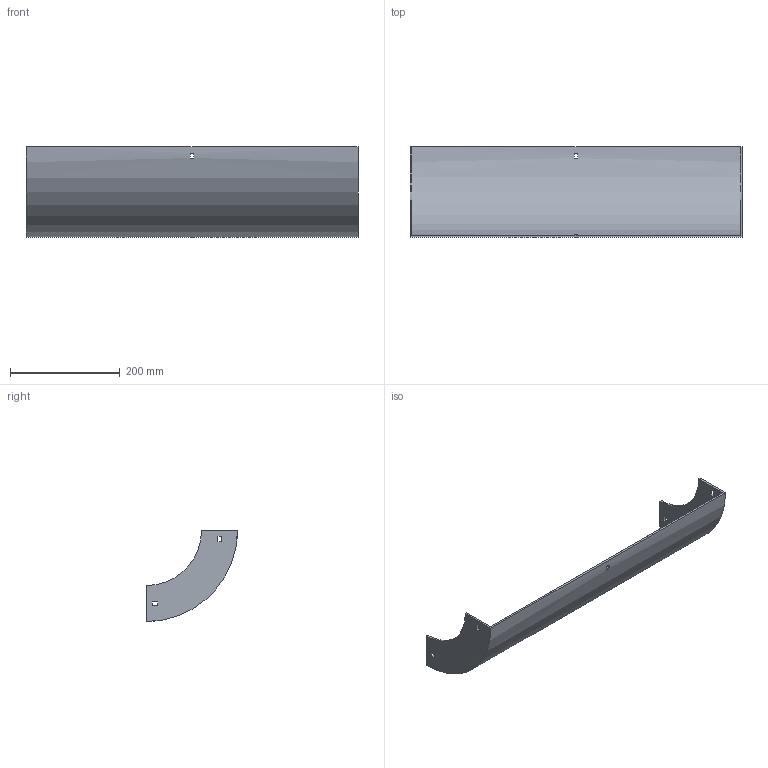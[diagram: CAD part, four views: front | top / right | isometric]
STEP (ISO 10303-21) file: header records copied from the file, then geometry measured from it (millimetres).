
FILE_DESCRIPTION (( 'STEP AP214' ), '1' );
FILE_NAME ('30B1H600.step', '2025-02-21T09:50:36', ( '' ), ( '' ), 'SwSTEP 2.0', 'SolidWorks 2023', '' );
FILE_SCHEMA (( 'AUTOMOTIVE_DESIGN' ));
Length unit declared in the file: millimetre
Products named in the file (1): 30B1H600
Bounding box: 604 x 165.5 x 165.5 mm (x, y, z)
Volume: 631673 mm3; surface area: 367865 mm2
Topology: 1 solids, 1 shells, 34 faces, 96 edges, 64 vertices
Faces by surface type: plane 30, cylinder 4
Entity records: 1143 total; most frequent: CARTESIAN_POINT 195, ORIENTED_EDGE 192, DIRECTION 182, EDGE_CURVE 96, LINE 80, VECTOR 80, VERTEX_POINT 64, AXIS2_PLACEMENT_3D 51
